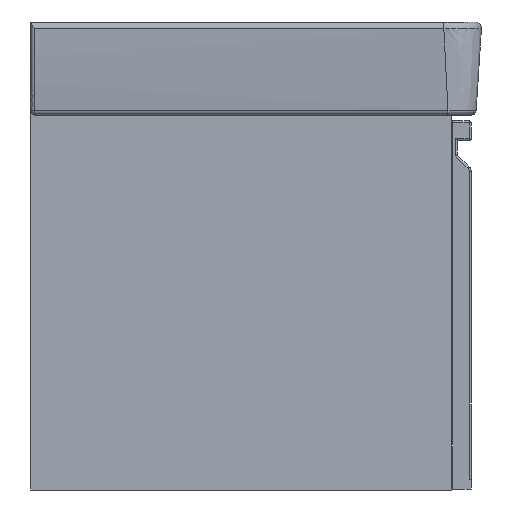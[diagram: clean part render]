
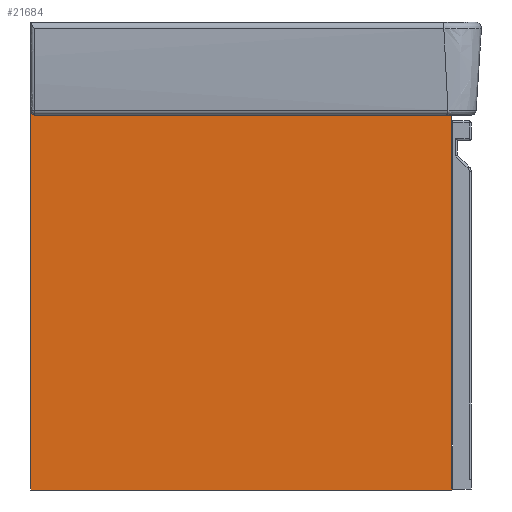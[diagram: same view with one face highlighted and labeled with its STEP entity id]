
A CAD part, left-side view. The second image highlights one B-rep face of the part: STEP entity #21684.
In plain terms, the highlighted planar face has unit normal (-1, 0, 0).
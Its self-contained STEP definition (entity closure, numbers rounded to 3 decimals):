
#4167=FACE_OUTER_BOUND('',#5277,.T.);
#5277=EDGE_LOOP('',(#20241,#20242,#20243,#20244));
#7020=LINE('',#100694,#8627);
#7021=LINE('',#100697,#8628);
#7022=LINE('',#100699,#8629);
#7023=LINE('',#100700,#8630);
#8627=VECTOR('',#30870,430.);
#8628=VECTOR('',#30873,387.);
#8629=VECTOR('',#30874,430.);
#8630=VECTOR('',#30875,387.);
#11802=VERTEX_POINT('',#100687);
#11805=VERTEX_POINT('',#100692);
#11806=VERTEX_POINT('',#100696);
#11807=VERTEX_POINT('',#100698);
#15388=EDGE_CURVE('',#11805,#11802,#7020,.T.);
#15389=EDGE_CURVE('',#11806,#11805,#7021,.T.);
#15390=EDGE_CURVE('',#11807,#11806,#7022,.T.);
#15391=EDGE_CURVE('',#11807,#11802,#7023,.T.);
#20241=ORIENTED_EDGE('',*,*,#15388,.F.);
#20242=ORIENTED_EDGE('',*,*,#15389,.F.);
#20243=ORIENTED_EDGE('',*,*,#15390,.F.);
#20244=ORIENTED_EDGE('',*,*,#15391,.T.);
#20684=PLANE('',#25120);
#21684=ADVANCED_FACE('',(#4167),#20684,.T.);
#25120=AXIS2_PLACEMENT_3D('',#100695,#30871,#30872);
#30870=DIRECTION('',(0.,-1.,0.));
#30871=DIRECTION('center_axis',(-1.,0.,0.));
#30872=DIRECTION('ref_axis',(0.,0.,1.));
#30873=DIRECTION('',(0.,0.,1.));
#30874=DIRECTION('',(0.,1.,0.));
#30875=DIRECTION('',(0.,0.,1.));
#100687=CARTESIAN_POINT('',(-7911.826,-10833.817,-1478.291));
#100692=CARTESIAN_POINT('',(-7911.826,-10403.817,-1478.291));
#100694=CARTESIAN_POINT('',(-7911.826,-10403.817,-1478.291));
#100695=CARTESIAN_POINT('Origin',(-7911.826,-10403.817,-1865.291));
#100696=CARTESIAN_POINT('',(-7911.826,-10403.817,-1865.291));
#100697=CARTESIAN_POINT('',(-7911.826,-10403.817,-1865.291));
#100698=CARTESIAN_POINT('',(-7911.826,-10833.817,-1865.291));
#100699=CARTESIAN_POINT('',(-7911.826,-10833.817,-1865.291));
#100700=CARTESIAN_POINT('',(-7911.826,-10833.817,-1865.291));
